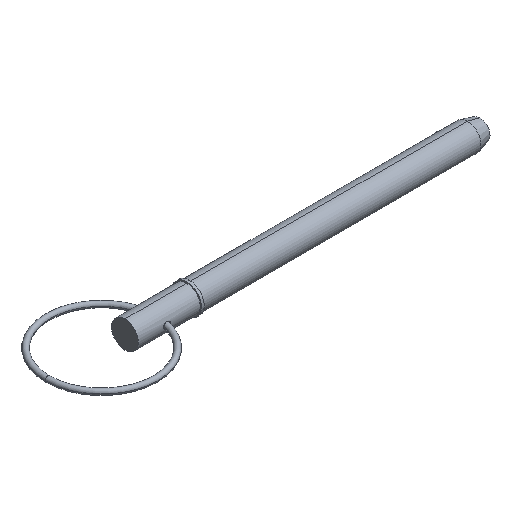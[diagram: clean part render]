
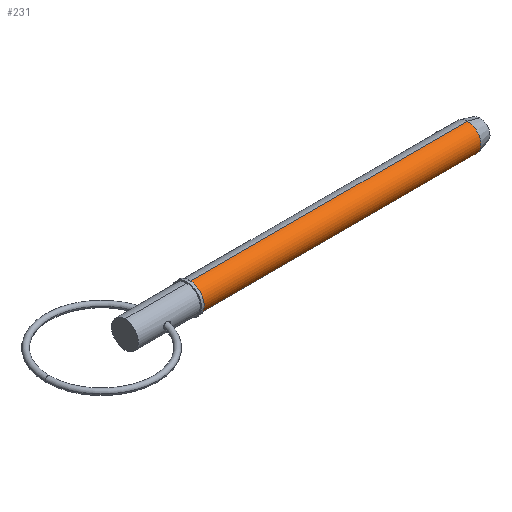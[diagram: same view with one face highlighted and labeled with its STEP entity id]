
A CAD part, isometric view. The second image highlights one B-rep face of the part: STEP entity #231.
In plain terms, the highlighted cylindrical face has radius 3.97 mm (diameter 7.94 mm), a partial arc.
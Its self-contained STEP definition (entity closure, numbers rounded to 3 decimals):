
#6 = CARTESIAN_POINT ( 'NONE',  ( 101.076, 0., -3.97 ) ) ;
#23 = DIRECTION ( 'NONE',  ( 1., 0., 0. ) ) ;
#40 = CARTESIAN_POINT ( 'NONE',  ( 19.05, 0., -3.97 ) ) ;
#93 = VERTEX_POINT ( 'NONE', #121 ) ;
#121 = CARTESIAN_POINT ( 'NONE',  ( 101.076, 0., 3.97 ) ) ;
#122 = DIRECTION ( 'NONE',  ( 1., 0., 0. ) ) ;
#147 = LINE ( 'NONE', #453, #227 ) ;
#154 = EDGE_CURVE ( 'NONE', #448, #301, #147, .T. ) ;
#180 = DIRECTION ( 'NONE',  ( 0., 0., -1. ) ) ;
#206 = EDGE_CURVE ( 'NONE', #93, #301, #689, .T. ) ;
#227 = VECTOR ( 'NONE', #23, 1000. ) ;
#231 = ADVANCED_FACE ( 'NONE', ( #338 ), #532, .T. ) ;
#248 = DIRECTION ( 'NONE',  ( 1., 0., 0. ) ) ;
#252 = DIRECTION ( 'NONE',  ( 0., 0., -1. ) ) ;
#262 = EDGE_CURVE ( 'NONE', #317, #93, #318, .T. ) ;
#301 = VERTEX_POINT ( 'NONE', #6 ) ;
#317 = VERTEX_POINT ( 'NONE', #544 ) ;
#318 = LINE ( 'NONE', #619, #576 ) ;
#324 = DIRECTION ( 'NONE',  ( 1., 0., 0. ) ) ;
#329 = ORIENTED_EDGE ( 'NONE', *, *, #154, .T. ) ;
#338 = FACE_OUTER_BOUND ( 'NONE', #602, .T. ) ;
#409 = CARTESIAN_POINT ( 'NONE',  ( 101.076, 0., 0. ) ) ;
#448 = VERTEX_POINT ( 'NONE', #40 ) ;
#451 = AXIS2_PLACEMENT_3D ( 'NONE', #956, #122, #180 ) ;
#453 = CARTESIAN_POINT ( 'NONE',  ( 0., 0., -3.97 ) ) ;
#459 = DIRECTION ( 'NONE',  ( 1., 0., 0. ) ) ;
#476 = ORIENTED_EDGE ( 'NONE', *, *, #206, .F. ) ;
#482 = AXIS2_PLACEMENT_3D ( 'NONE', #409, #459, #538 ) ;
#519 = EDGE_CURVE ( 'NONE', #317, #448, #756, .T. ) ;
#532 = CYLINDRICAL_SURFACE ( 'NONE', #989, 3.97 ) ;
#538 = DIRECTION ( 'NONE',  ( 0., 0., -1. ) ) ;
#544 = CARTESIAN_POINT ( 'NONE',  ( 19.05, 0., 3.97 ) ) ;
#576 = VECTOR ( 'NONE', #324, 1000. ) ;
#602 = EDGE_LOOP ( 'NONE', ( #792, #846, #329, #476 ) ) ;
#619 = CARTESIAN_POINT ( 'NONE',  ( 0., 0., 3.97 ) ) ;
#689 = CIRCLE ( 'NONE', #482, 3.97 ) ;
#714 = CARTESIAN_POINT ( 'NONE',  ( 0., 0., 0. ) ) ;
#756 = CIRCLE ( 'NONE', #451, 3.97 ) ;
#792 = ORIENTED_EDGE ( 'NONE', *, *, #262, .F. ) ;
#846 = ORIENTED_EDGE ( 'NONE', *, *, #519, .T. ) ;
#956 = CARTESIAN_POINT ( 'NONE',  ( 19.05, 0., 0. ) ) ;
#989 = AXIS2_PLACEMENT_3D ( 'NONE', #714, #248, #252 ) ;
